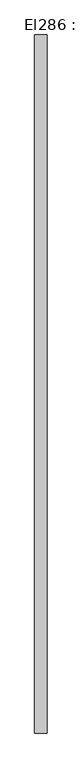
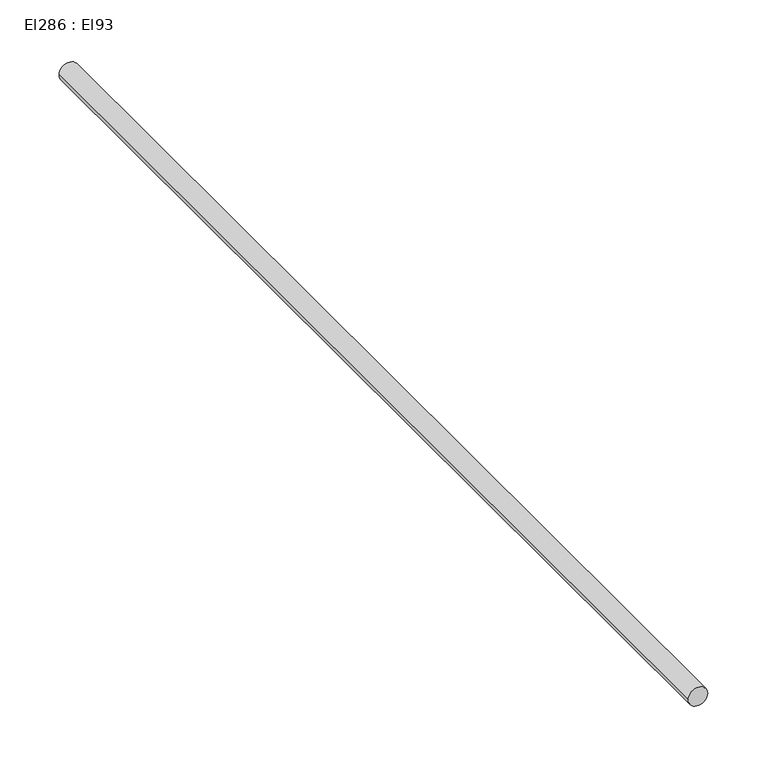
"""IFC4 building model written with IfcOpenShell, lengths in millimetres: cable carrier segment geometry, El286 : El93."""

from ifc_helpers import new_model, si_unit, point, frame, frame_2d, origin, place, context, project, spatial, circle_curve, trimmed, segment, composite_curve, outline, extrude, source, transform, mapped, element, save


def el286_el93_a737a8e3(model_context):
    return source(origin(), model_context, "Body", "SweptSolid", [
        extrude(outline(composite_curve([segment(trimmed(circle_curve(frame_2d((1800.0, 19844.4746511)), 9.5), [point((1800.0, 19834.9746511))], [point((1800.0, 19853.9746511))], False, "CARTESIAN"), True, "CONTINUOUS"), segment(trimmed(circle_curve(frame_2d((1800.0, 19844.4746511)), 9.5), [point((1800.0, 19853.9746511))], [point((1800.0, 19834.9746511))], False, "CARTESIAN"), True, "CONTINUOUS")], self_intersect=False)), frame((0.0, 7761.6171745, 0.0), z_axis=(0.0, 1.0, 0.0), x_axis=(0.0, 0.0, 1.0)), (0.0, 0.0, 1.0), 1063.99),
    ])


if __name__ == "__main__":
    model = new_model("IFC4")
    model_context = context("Model", 3, world=origin())
    ifc_project = project(units=[si_unit("LENGTHUNIT", "METRE", prefix="MILLI")], contexts=[model_context])
    site = spatial("IfcSite", under=ifc_project)
    building = spatial("IfcBuilding", under=site)
    placement = place(None, origin())
    el286_el93_shape = el286_el93_a737a8e3(model_context)
    element("IfcCableCarrierSegment", 1, ObjectType="El286 : El93", at=placement, inside=building, context=model_context, shape_type="MappedRepresentation", body=[
        mapped(el286_el93_shape, transform((0.0, 0.0, 0.0), x_axis=(1.0, 0.0, 0.0), y_axis=(0.0, 1.0, 0.0), z_axis=(0.0, 0.0, 1.0))),
    ])
    save(model, "model.ifc")
